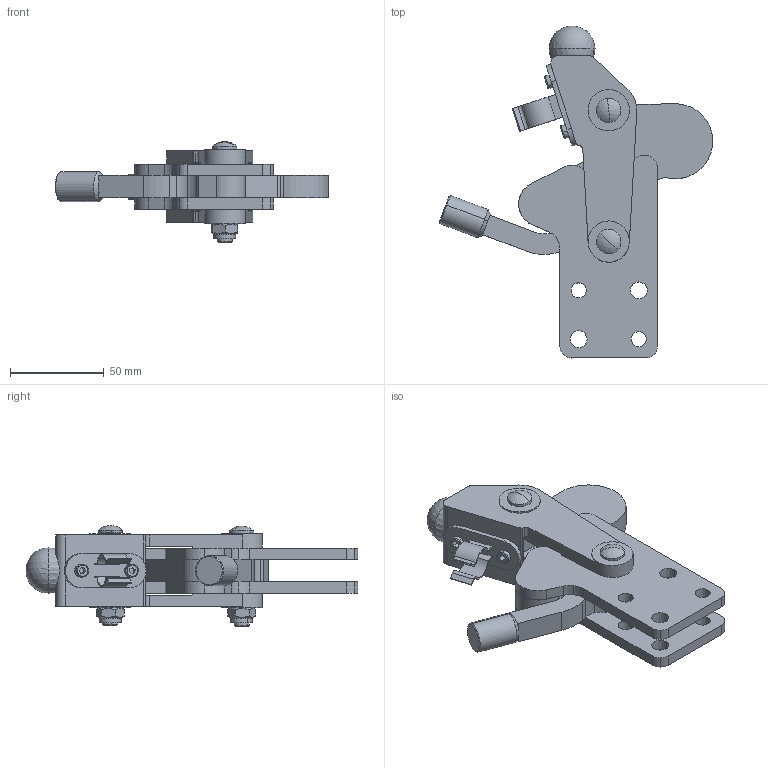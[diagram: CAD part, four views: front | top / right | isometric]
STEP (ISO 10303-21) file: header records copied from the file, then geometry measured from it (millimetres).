
FILE_DESCRIPTION((''),'2;1');
FILE_NAME('C:\Documents and Settings\clare\My Documents\STPS\M20-00-RM1.stp','2009-11-29T21:49:34',('clare'),(''),'Autodesk Inventor 8','Autodesk Inventor 8','');
FILE_SCHEMA(('AUTOMOTIVE_DESIGN { 1 0 10303 214 1 1 1 1 }'));
Length unit declared in the file: millimetre
Products named in the file (6): M20-00-RM1; M20-00-RM11; M20-00-RM12; M20-00-RM13; M20-00-RM14; M20-00-RM15
Assembly tree (5 placements, depth 2):
  M20-00-RM1
    M20-00-RM11
    M20-00-RM12
    M20-00-RM13
    M20-00-RM14
    M20-00-RM15
Bounding box: 145.74 x 176.91 x 53.77 mm (x, y, z)
Volume: 202847.1 mm3; surface area: 73834.9 mm2
Topology: 5 solids, 10 shells, 439 faces, 1125 edges, 722 vertices
Faces by surface type: plane 219, cylinder 138, bspline 48, cone 24, sphere 6, torus 4
Entity records: 14187 total; most frequent: CARTESIAN_POINT 3188, DIRECTION 2365, ORIENTED_EDGE 2236, EDGE_CURVE 1118, AXIS2_PLACEMENT_3D 871, VERTEX_POINT 721, VECTOR 623, LINE 623
